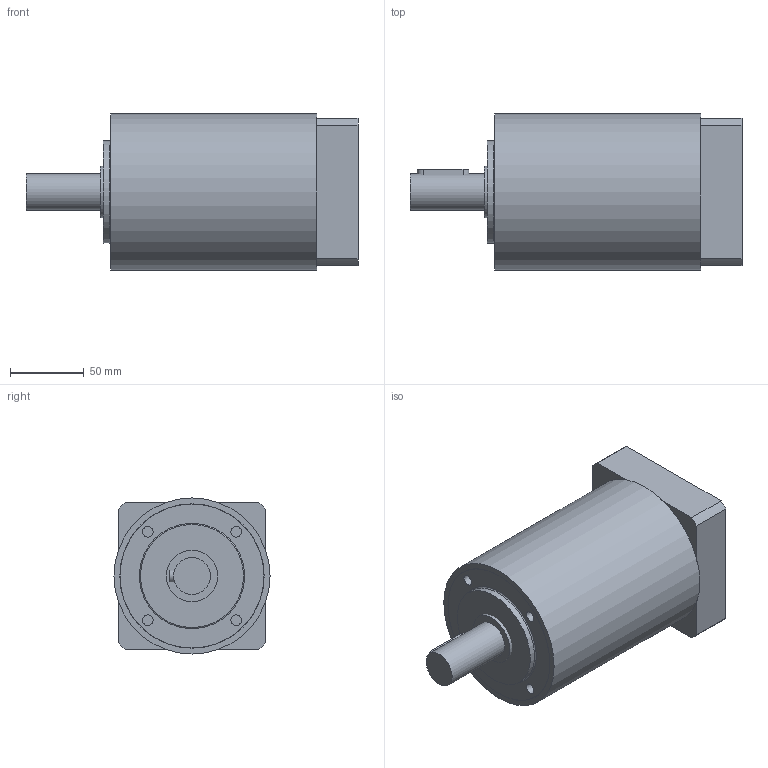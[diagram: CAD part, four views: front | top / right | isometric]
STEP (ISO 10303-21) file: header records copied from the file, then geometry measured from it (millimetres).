
FILE_DESCRIPTION(/* description */ (''),/* implementation_level */ '2;1');
FILE_NAME(/* name */ 'E0001806MP171007100411',/* time_stamp */ '2007-10-17T10:27:09+02:00',/* author */ (''),/* organization */ (''),/* preprocessor_version */ 'ST-DEVELOPER v9',/* originating_system */ 'EDS PLM SOLUTIONS - UNIGRAPHICS NX 2.0',/* authorisation */ '');
FILE_SCHEMA (('CONFIG_CONTROL_DESIGN'));
Length unit declared in the file: millimetre
Products named in the file (1): E0001806MP171007100411_u3d
Bounding box: 225.5 x 106 x 106 mm (x, y, z)
Volume: 1878448 mm3; surface area: 182296.5 mm2
Topology: 8 solids, 8 shells, 100 faces, 211 edges, 138 vertices
Faces by surface type: plane 45, cylinder 40, cone 12, torus 3
Full cylindrical faces by diameter (mm): 5.188 x6, 6.2 x1, 6.5 x1, 7.188 x4, 10.5 x1, 14 x1, 17.75 x1, 19 x1, 25 x2, 35 x1, 52 x1, 70 x1, 80 x1, 80.6 x1, 89.95 x1, 90 x1, 95.4 x1, 97.85 x1, 98 x2, 106 x1
Entity records: 2522 total; most frequent: CARTESIAN_POINT 477, DIRECTION 433, ORIENTED_EDGE 298, AXIS2_PLACEMENT_3D 186, EDGE_LOOP 162, EDGE_CURVE 149, VERTEX_POINT 125, FACE_BOUND 103
